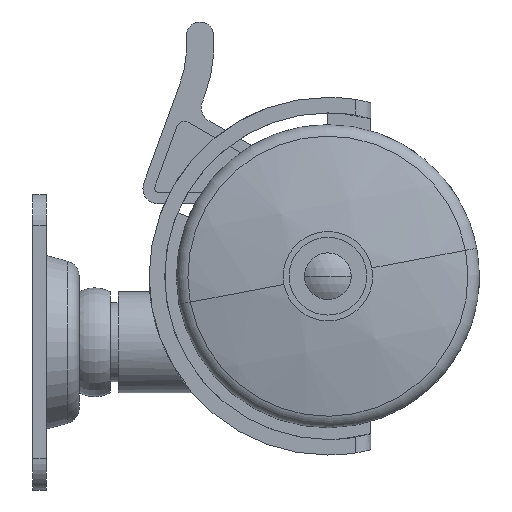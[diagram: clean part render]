
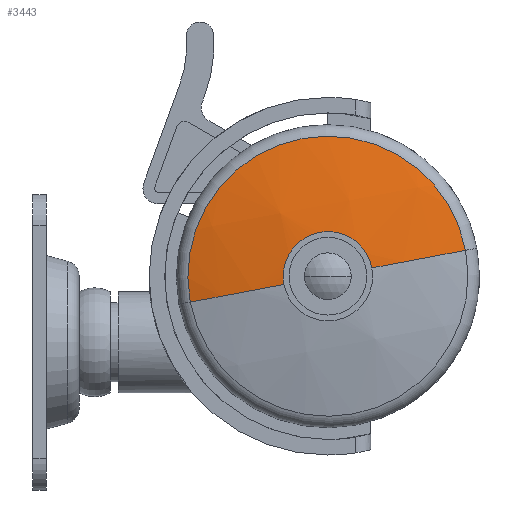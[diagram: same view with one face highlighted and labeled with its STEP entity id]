
A CAD part, left-side view. The second image highlights one B-rep face of the part: STEP entity #3443.
In plain terms, the highlighted spherical face has radius 70 mm.
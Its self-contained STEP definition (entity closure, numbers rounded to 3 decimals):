
#4 = DIRECTION ( 'NONE',  ( -1., 0., 0. ) ) ;
#38 = CIRCLE ( 'NONE', #3485, 70. ) ;
#150 = CARTESIAN_POINT ( 'NONE',  ( 15.642, 0., 0. ) ) ;
#312 = CIRCLE ( 'NONE', #4491, 70. ) ;
#346 = CARTESIAN_POINT ( 'NONE',  ( 17.763, 0., 0. ) ) ;
#470 = DIRECTION ( 'NONE',  ( 0., 0., 1. ) ) ;
#529 = AXIS2_PLACEMENT_3D ( 'NONE', #346, #4, #3961 ) ;
#574 = DIRECTION ( 'NONE',  ( 0., 0., -1. ) ) ;
#578 = EDGE_CURVE ( 'NONE', #3001, #1269, #38, .T. ) ;
#591 = CARTESIAN_POINT ( 'NONE',  ( -52., 0., 0. ) ) ;
#596 = DIRECTION ( 'NONE',  ( 0., 1., 0. ) ) ;
#604 = CARTESIAN_POINT ( 'NONE',  ( -52., 0., 0. ) ) ;
#722 = EDGE_LOOP ( 'NONE', ( #3721, #2691, #2121, #2037, #1327 ) ) ;
#1217 = CARTESIAN_POINT ( 'NONE',  ( 15.642, -18.015, 0. ) ) ;
#1248 = DIRECTION ( 'NONE',  ( 1., 0., 0. ) ) ;
#1269 = VERTEX_POINT ( 'NONE', #2657 ) ;
#1312 = FACE_OUTER_BOUND ( 'NONE', #722, .T. ) ;
#1327 = ORIENTED_EDGE ( 'NONE', *, *, #578, .F. ) ;
#1563 = DIRECTION ( 'NONE',  ( 0., -1., 0. ) ) ;
#1603 = DIRECTION ( 'NONE',  ( 1., 0., 0. ) ) ;
#1683 = DIRECTION ( 'NONE',  ( 0., 0., 1. ) ) ;
#1736 = CARTESIAN_POINT ( 'NONE',  ( 17.763, 0., -5.75 ) ) ;
#1860 = EDGE_CURVE ( 'NONE', #3307, #1269, #3653, .T. ) ;
#1894 = CARTESIAN_POINT ( 'NONE',  ( -52., 0., 0. ) ) ;
#2006 = EDGE_CURVE ( 'NONE', #2832, #3521, #4530, .T. ) ;
#2037 = ORIENTED_EDGE ( 'NONE', *, *, #1860, .T. ) ;
#2121 = ORIENTED_EDGE ( 'NONE', *, *, #2711, .T. ) ;
#2249 = AXIS2_PLACEMENT_3D ( 'NONE', #150, #1248, #1563 ) ;
#2370 = DIRECTION ( 'NONE',  ( 0., 0., -1. ) ) ;
#2508 = CIRCLE ( 'NONE', #529, 5.75 ) ;
#2657 = CARTESIAN_POINT ( 'NONE',  ( 15.642, 18.015, 0. ) ) ;
#2691 = ORIENTED_EDGE ( 'NONE', *, *, #2006, .T. ) ;
#2711 = EDGE_CURVE ( 'NONE', #3521, #3307, #312, .T. ) ;
#2715 = CARTESIAN_POINT ( 'NONE',  ( 17.763, 5.75, 0. ) ) ;
#2832 = VERTEX_POINT ( 'NONE', #1736 ) ;
#3001 = VERTEX_POINT ( 'NONE', #2715 ) ;
#3149 = CARTESIAN_POINT ( 'NONE',  ( 17.763, 0., 0. ) ) ;
#3167 = EDGE_CURVE ( 'NONE', #3001, #2832, #2508, .T. ) ;
#3307 = VERTEX_POINT ( 'NONE', #1217 ) ;
#3443 = ADVANCED_FACE ( 'NONE', ( #1312 ), #3737, .T. ) ;
#3485 = AXIS2_PLACEMENT_3D ( 'NONE', #1894, #470, #1603 ) ;
#3521 = VERTEX_POINT ( 'NONE', #3722 ) ;
#3653 = CIRCLE ( 'NONE', #2249, 18.015 ) ;
#3721 = ORIENTED_EDGE ( 'NONE', *, *, #3167, .T. ) ;
#3722 = CARTESIAN_POINT ( 'NONE',  ( 17.763, -5.75, 0. ) ) ;
#3727 = AXIS2_PLACEMENT_3D ( 'NONE', #3149, #4178, #1683 ) ;
#3737 = SPHERICAL_SURFACE ( 'NONE', #3838, 70. ) ;
#3838 = AXIS2_PLACEMENT_3D ( 'NONE', #591, #574, #596 ) ;
#3961 = DIRECTION ( 'NONE',  ( 0., 0., 1. ) ) ;
#4071 = DIRECTION ( 'NONE',  ( 0., 1., 0. ) ) ;
#4178 = DIRECTION ( 'NONE',  ( -1., 0., 0. ) ) ;
#4491 = AXIS2_PLACEMENT_3D ( 'NONE', #604, #2370, #4071 ) ;
#4530 = CIRCLE ( 'NONE', #3727, 5.75 ) ;
